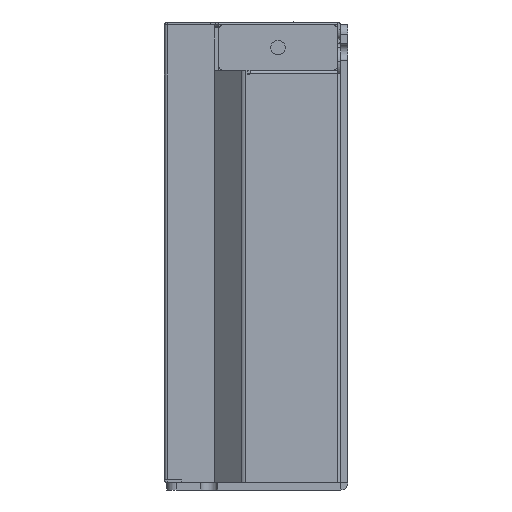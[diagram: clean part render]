
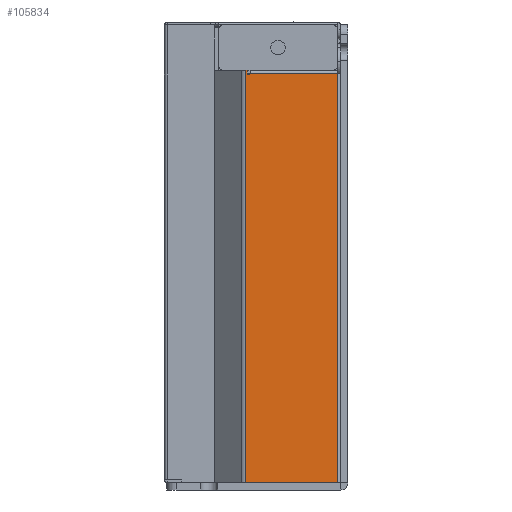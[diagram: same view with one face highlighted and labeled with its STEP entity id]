
A CAD part, left-side view. The second image highlights one B-rep face of the part: STEP entity #105834.
In plain terms, the highlighted planar face has unit normal (-1, 0, 0).
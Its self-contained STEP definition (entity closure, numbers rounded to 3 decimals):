
#64178=DIRECTION('',(0.,1.,0.));
#64179=VECTOR('',#64178,85.5);
#64180=CARTESIAN_POINT('',(-67.45,-37.85,-16.849));
#64181=LINE('',#64180,#64179);
#64186=DIRECTION('',(0.,0.,1.));
#64187=VECTOR('',#64186,19.051);
#64188=CARTESIAN_POINT('',(-67.45,47.65,-35.9));
#64189=LINE('',#64188,#64187);
#64190=DIRECTION('',(0.,0.,-1.));
#64191=VECTOR('',#64190,0.3);
#64192=CARTESIAN_POINT('',(-67.45,-37.85,-16.849));
#64193=LINE('',#64192,#64191);
#64194=DIRECTION('',(0.,1.,0.));
#64195=VECTOR('',#64194,0.6);
#64196=CARTESIAN_POINT('',(-67.45,-37.85,-17.149));
#64197=LINE('',#64196,#64195);
#64198=CARTESIAN_POINT('',(-67.45,-37.25,-17.449));
#64199=DIRECTION('',(-1.,0.,0.));
#64200=DIRECTION('',(0.,0.,1.));
#64201=AXIS2_PLACEMENT_3D('',#64198,#64199,#64200);
#64207=DIRECTION('',(0.,0.,1.));
#64208=VECTOR('',#64207,18.151);
#64209=CARTESIAN_POINT('',(-67.45,-37.25,-35.9));
#64210=LINE('',#64209,#64208);
#64391=DIRECTION('',(0.,-1.,0.));
#64392=VECTOR('',#64391,84.9);
#64393=CARTESIAN_POINT('',(-67.45,47.65,-35.9));
#64394=LINE('',#64393,#64392);
#95370=CARTESIAN_POINT('',(-67.45,-37.85,-17.149));
#95371=VERTEX_POINT('',#95370);
#95372=CARTESIAN_POINT('',(-67.45,-37.85,-16.849));
#95373=VERTEX_POINT('',#95372);
#95380=CARTESIAN_POINT('',(-67.45,47.65,-16.849));
#95381=VERTEX_POINT('',#95380);
#95382=CARTESIAN_POINT('',(-67.45,-37.25,-35.9));
#95383=CARTESIAN_POINT('',(-67.45,-37.25,-17.749));
#95384=VERTEX_POINT('',#95382);
#95385=VERTEX_POINT('',#95383);
#95386=CARTESIAN_POINT('',(-67.45,47.65,-35.9));
#95387=VERTEX_POINT('',#95386);
#95388=CARTESIAN_POINT('',(-67.45,-37.25,-17.149));
#95389=VERTEX_POINT('',#95388);
#105815=CARTESIAN_POINT('',(-67.45,25.102,-16.6));
#105816=DIRECTION('',(1.,0.,0.));
#105817=DIRECTION('',(0.,-1.,0.));
#105818=AXIS2_PLACEMENT_3D('',#105815,#105816,#105817);
#105819=PLANE('',#105818);
#105821=ORIENTED_EDGE('',*,*,#105820,.F.);
#105823=ORIENTED_EDGE('',*,*,#105822,.F.);
#105825=ORIENTED_EDGE('',*,*,#105824,.T.);
#105826=ORIENTED_EDGE('',*,*,#105808,.F.);
#105827=ORIENTED_EDGE('',*,*,#105712,.T.);
#105829=ORIENTED_EDGE('',*,*,#105828,.T.);
#105831=ORIENTED_EDGE('',*,*,#105830,.T.);
#105832=EDGE_LOOP('',(#105821,#105823,#105825,#105826,#105827,#105829,#105831));
#105833=FACE_OUTER_BOUND('',#105832,.F.);
#64202=CIRCLE('',#64201,0.3);
#105712=EDGE_CURVE('',#95373,#95371,#64193,.T.);
#105808=EDGE_CURVE('',#95373,#95381,#64181,.T.);
#105820=EDGE_CURVE('',#95384,#95385,#64210,.T.);
#105822=EDGE_CURVE('',#95387,#95384,#64394,.T.);
#105824=EDGE_CURVE('',#95387,#95381,#64189,.T.);
#105828=EDGE_CURVE('',#95371,#95389,#64197,.T.);
#105830=EDGE_CURVE('',#95389,#95385,#64202,.T.);
#105834=ADVANCED_FACE('',(#105833),#105819,.F.);
